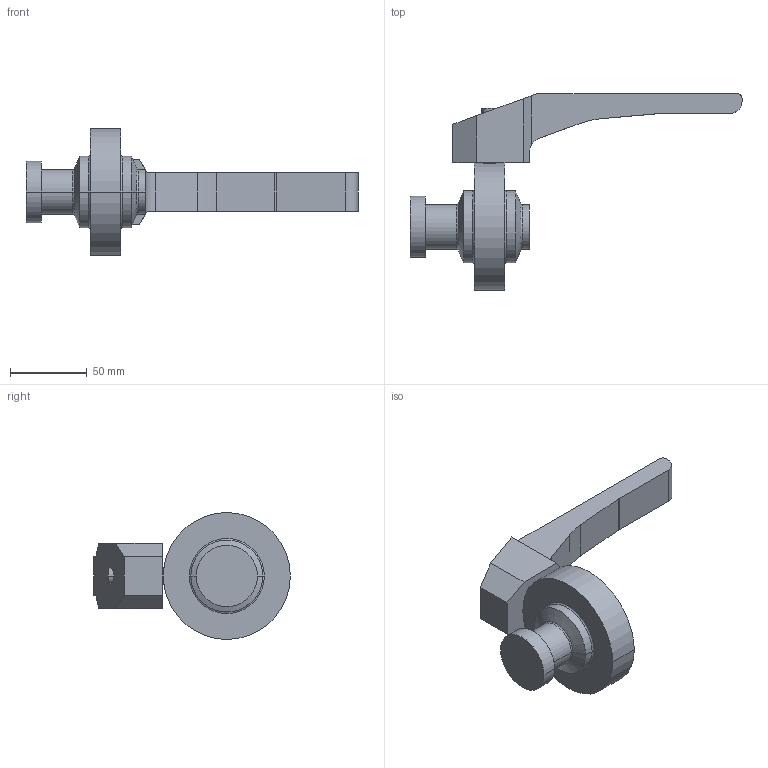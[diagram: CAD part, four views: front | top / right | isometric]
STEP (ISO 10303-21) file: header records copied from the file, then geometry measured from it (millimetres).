
FILE_DESCRIPTION(('OneSpaceDesigner STEP Export'),'2;1');
FILE_NAME('SV1-25-H-1S-2K.stp','2011-02-23T11:38:40',(''),(''),'OneSpace Designer STEP processor for AP214 (Solid Model)','OneSpace Modeling 15.00B 25-Jun-2007 (C) CoCreate Software GmbH','');
FILE_SCHEMA(('AUTOMOTIVE_DESIGN { 1 0 10303 214 1 1 1 1 }'));
Length unit declared in the file: millimetre
Products named in the file (3): SV1-25-H-1S2K-Kern; Handhebel-SV-40-100; SV1-25-H-1S-2K
Assembly tree (2 placements, depth 2):
  SV1-25-H-1S-2K
    Handhebel-SV-40-100
    SV1-25-H-1S2K-Kern
Bounding box: 217 x 128.5 x 83 mm (x, y, z)
Volume: 295867.5 mm3; surface area: 44526.2 mm2
Topology: 2 solids, 2 shells, 60 faces, 135 edges, 84 vertices
Faces by surface type: plane 25, cylinder 23, torus 8, cone 4
Entity records: 1958 total; most frequent: CARTESIAN_POINT 641, ORIENTED_EDGE 270, DIRECTION 247, EDGE_CURVE 135, AXIS2_PLACEMENT_3D 89, VERTEX_POINT 84, VECTOR 69, LINE 69
